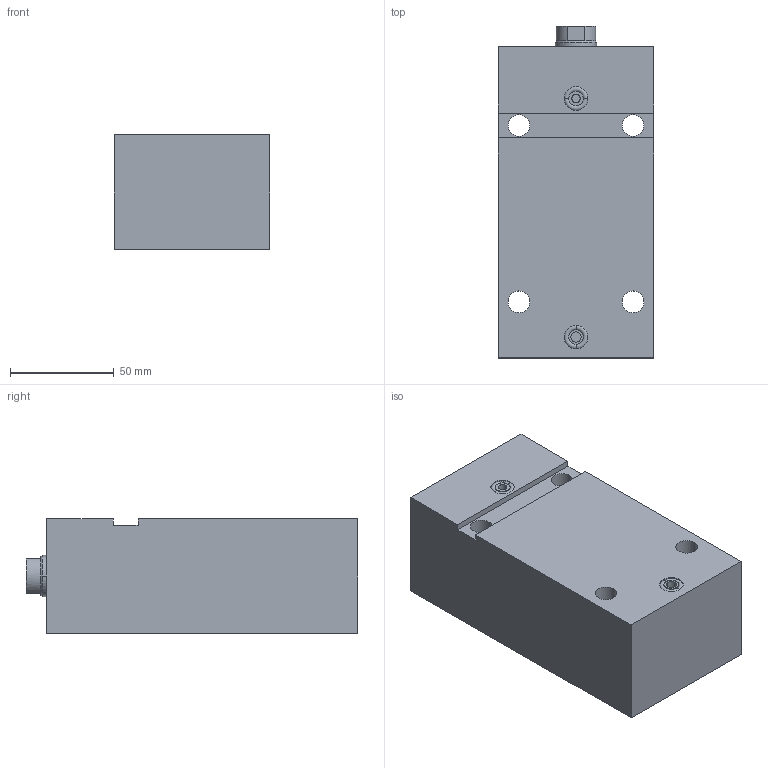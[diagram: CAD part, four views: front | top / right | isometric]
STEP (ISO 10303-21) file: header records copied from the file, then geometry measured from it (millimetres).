
FILE_DESCRIPTION (( 'STEP AP203' ), '1' );
FILE_NAME ('GERMA_Blockzylinder_604-032-100.STEP', '2016-01-24T16:06:35', ( '' ), ( '' ), 'SwSTEP 2.0', 'SolidWorks 2015', '' );
FILE_SCHEMA (( 'CONFIG_CONTROL_DESIGN' ));
Length unit declared in the file: millimetre
Products named in the file (3): GERMA_Blockzylinder_604-032-100; GH-600-032_GH-604-032-100; Kolben 60x-032_Kolben DU.32-Hub100-IG
Assembly tree (2 placements, depth 2):
  GERMA_Blockzylinder_604-032-100
    GH-600-032_GH-604-032-100
    Kolben 60x-032_Kolben DU.32-Hub100-IG
Bounding box: 75 x 160 x 55 mm (x, y, z)
Volume: 549278.1 mm3; surface area: 80390.4 mm2
Topology: 2 solids, 2 shells, 85 faces, 188 edges, 114 vertices
Faces by surface type: cylinder 41, plane 26, cone 14, torus 4
Entity records: 2638 total; most frequent: DIRECTION 459, CARTESIAN_POINT 386, ORIENTED_EDGE 364, AXIS2_PLACEMENT_3D 187, EDGE_CURVE 182, VERTEX_POINT 114, EDGE_LOOP 106, CIRCLE 97
